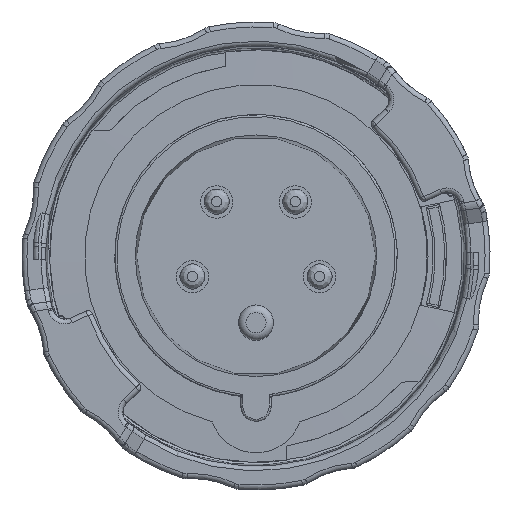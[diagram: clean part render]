
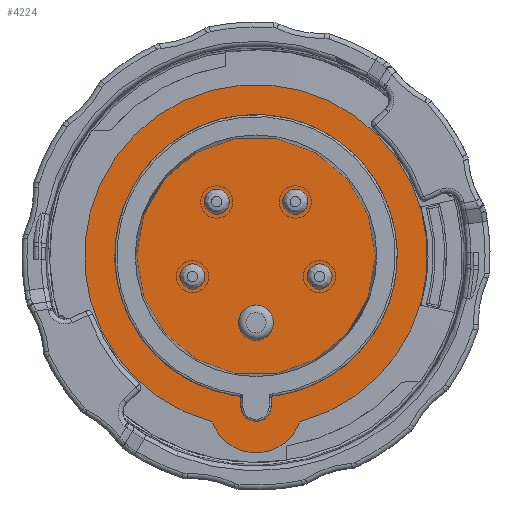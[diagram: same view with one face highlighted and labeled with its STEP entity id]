
A CAD part, top view. The second image highlights one B-rep face of the part: STEP entity #4224.
In plain terms, the highlighted planar face has unit normal (0, 0, 1).
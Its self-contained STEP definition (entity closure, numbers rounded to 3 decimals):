
#3424=CIRCLE('',#14151,9.2);
#3425=CIRCLE('',#14152,34.);
#4224=ADVANCED_FACE('',(#4844),#4351,.F.);
#4351=PLANE('',#14153);
#4844=FACE_OUTER_BOUND('',#5443,.T.);
#5443=EDGE_LOOP('',(#9011,#9012));
#9011=ORIENTED_EDGE('',*,*,#12235,.T.);
#9012=ORIENTED_EDGE('',*,*,#12236,.T.);
#10414=VERTEX_POINT('',#37097);
#10415=VERTEX_POINT('',#37098);
#12235=EDGE_CURVE('',#10414,#10415,#3424,.T.);
#12236=EDGE_CURVE('',#10415,#10414,#3425,.T.);
#14151=AXIS2_PLACEMENT_3D('',#37096,#16355,#16356);
#14152=AXIS2_PLACEMENT_3D('',#37099,#16357,#16358);
#14153=AXIS2_PLACEMENT_3D('',#37100,#16359,#16360);
#16355=DIRECTION('',(0.,0.,1.));
#16356=DIRECTION('',(0.942,-0.334,0.));
#16357=DIRECTION('',(0.,0.,1.));
#16358=DIRECTION('',(-0.255,-0.967,0.));
#16359=DIRECTION('',(0.,0.,-1.));
#16360=DIRECTION('',(1.,0.,0.));
#37096=CARTESIAN_POINT('',(0.,-29.8,6.65));
#37097=CARTESIAN_POINT('',(-8.671,-32.876,6.65));
#37098=CARTESIAN_POINT('',(8.671,-32.876,6.65));
#37099=CARTESIAN_POINT('',(0.,0.,6.65));
#37100=CARTESIAN_POINT('',(40.8,-46.3,6.65));
